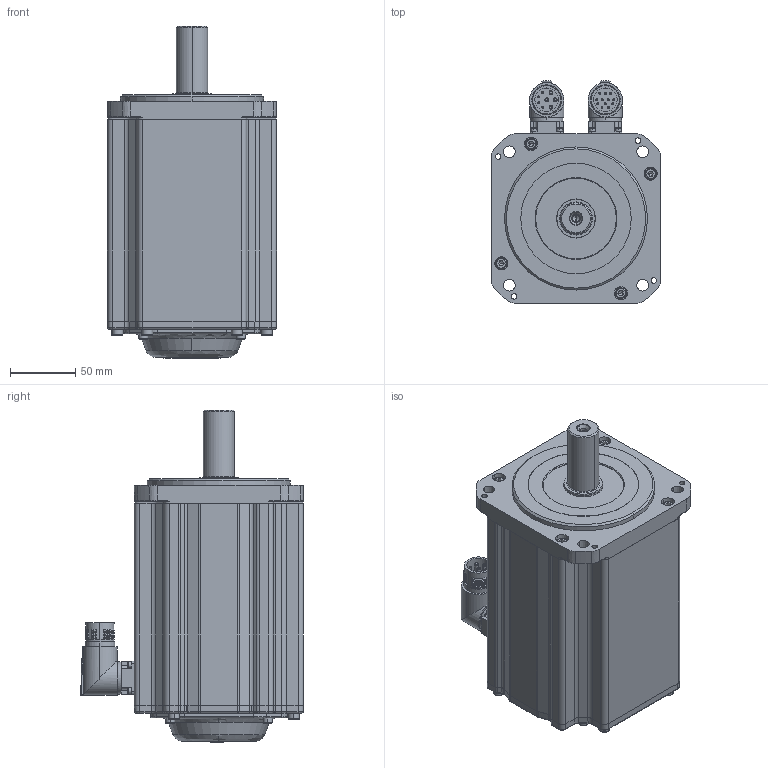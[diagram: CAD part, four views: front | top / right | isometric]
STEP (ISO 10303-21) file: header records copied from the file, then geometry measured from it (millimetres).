
FILE_DESCRIPTION (( 'STEP AP203' ), '1' );
FILE_NAME ('MC20-130-3M20-N252-0¡õPL-NNNN.STEP', '2025-07-29T15:05:27', ( '' ), ( '' ), 'SwSTEP 2.0', 'SolidWorks 2014', '' );
FILE_SCHEMA (( 'CONFIG_CONTROL_DESIGN' ));
Length unit declared in the file: millimetre
Products named in the file (1): MC20-130-3M20-N252-0¡õPL-NNNN
Bounding box: 130 x 171.35 x 255.3 mm (x, y, z)
Volume: 2882986.8 mm3; surface area: 286855.5 mm2
Topology: 28 solids, 28 shells, 2022 faces, 4794 edges, 2857 vertices
Faces by surface type: plane 733, cylinder 567, cone 358, bspline 204, torus 148, sphere 12
Entity records: 62107 total; most frequent: CARTESIAN_POINT 16808, DIRECTION 9523, ORIENTED_EDGE 9364, EDGE_CURVE 4682, AXIS2_PLACEMENT_3D 3694, VERTEX_POINT 2857, EDGE_LOOP 2269, LINE 2135
